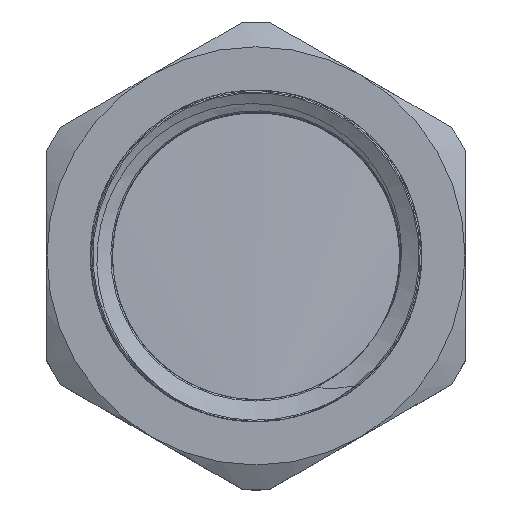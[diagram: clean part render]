
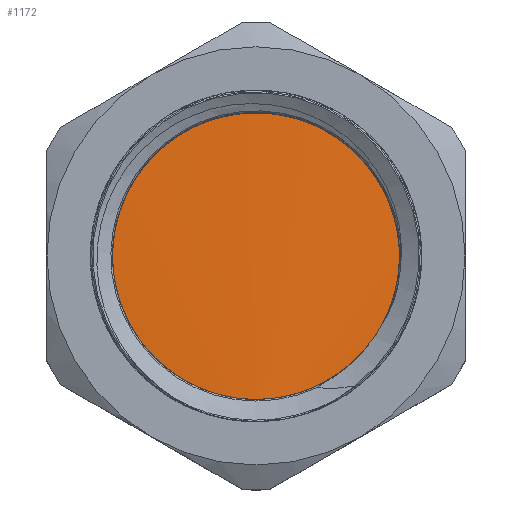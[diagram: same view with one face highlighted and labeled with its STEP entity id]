
A CAD part, top view. The second image highlights one B-rep face of the part: STEP entity #1172.
In plain terms, the highlighted cylindrical face has radius 9.315 mm (diameter 18.63 mm), a full revolution.
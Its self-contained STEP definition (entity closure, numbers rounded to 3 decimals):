
#25=B_SPLINE_CURVE_WITH_KNOTS('',3,(#1800,#1801,#1802,#1803,#1804,#1805,
#1806,#1807,#1808,#1809,#1810,#1811,#1812,#1813,#1814,#1815,#1816,#1817,
#1818,#1819,#1820,#1821,#1822,#1823,#1824,#1825,#1826,#1827,#1828,#1829,
#1830,#1831,#1832,#1833,#1834,#1835,#1836,#1837,#1838,#1839,#1840,#1841,
#1842),.UNSPECIFIED.,.F.,.F.,(4,3,3,3,3,3,3,3,3,3,3,3,3,3,4),(-18.85,
-18.43,-17.943,-17.456,-16.969,
-16.482,-15.995,-15.508,-15.021,
-14.534,-14.047,-13.56,-13.073,
-12.586,-12.566),.UNSPECIFIED.);
#138=LINE('',#1797,#177);
#139=LINE('',#1799,#178);
#177=VECTOR('',#1483,9.315);
#178=VECTOR('',#1484,9.315);
#210=CYLINDRICAL_SURFACE('',#1296,9.315);
#261=FACE_OUTER_BOUND('',#334,.T.);
#334=EDGE_LOOP('',(#896,#897,#898));
#496=VERTEX_POINT('',#1795);
#497=VERTEX_POINT('',#1796);
#498=VERTEX_POINT('',#1798);
#642=EDGE_CURVE('',#496,#497,#138,.T.);
#643=EDGE_CURVE('',#496,#498,#139,.T.);
#644=EDGE_CURVE('',#498,#497,#25,.T.);
#896=ORIENTED_EDGE('',*,*,#642,.F.);
#897=ORIENTED_EDGE('',*,*,#643,.T.);
#898=ORIENTED_EDGE('',*,*,#644,.T.);
#1172=ADVANCED_FACE('',(#261),#210,.T.);
#1296=AXIS2_PLACEMENT_3D('',#1794,#1481,#1482);
#1481=DIRECTION('center_axis',(0.,0.,-1.));
#1482=DIRECTION('ref_axis',(0.,1.,0.));
#1483=DIRECTION('',(0.,0.,-1.));
#1484=DIRECTION('',(0.,0.,1.));
#1794=CARTESIAN_POINT('Origin',(0.,0.,6.1));
#1795=CARTESIAN_POINT('',(0.,-9.315,3.592));
#1796=CARTESIAN_POINT('',(0.,-9.315,1.793));
#1797=CARTESIAN_POINT('',(0.,-9.315,6.1));
#1798=CARTESIAN_POINT('',(0.,-9.315,3.593));
#1799=CARTESIAN_POINT('',(0.,-9.315,6.1));
#1800=CARTESIAN_POINT('Ctrl Pts',(0.,-9.315,
3.593));
#1801=CARTESIAN_POINT('Ctrl Pts',(-1.302,-9.314,3.553));
#1802=CARTESIAN_POINT('Ctrl Pts',(-2.605,-9.038,3.513));
#1803=CARTESIAN_POINT('Ctrl Pts',(-3.795,-8.508,3.473));
#1804=CARTESIAN_POINT('Ctrl Pts',(-5.176,-7.892,3.426));
#1805=CARTESIAN_POINT('Ctrl Pts',(-6.403,-6.933,3.38));
#1806=CARTESIAN_POINT('Ctrl Pts',(-7.335,-5.743,3.333));
#1807=CARTESIAN_POINT('Ctrl Pts',(-8.267,-4.552,3.287));
#1808=CARTESIAN_POINT('Ctrl Pts',(-8.903,-3.13,3.24));
#1809=CARTESIAN_POINT('Ctrl Pts',(-9.17,-1.642,3.194));
#1810=CARTESIAN_POINT('Ctrl Pts',(-9.436,-0.154,
3.147));
#1811=CARTESIAN_POINT('Ctrl Pts',(-9.333,1.4,3.101));
#1812=CARTESIAN_POINT('Ctrl Pts',(-8.872,2.84,3.054));
#1813=CARTESIAN_POINT('Ctrl Pts',(-8.411,4.28,3.008));
#1814=CARTESIAN_POINT('Ctrl Pts',(-7.593,5.605,2.961));
#1815=CARTESIAN_POINT('Ctrl Pts',(-6.512,6.662,2.915));
#1816=CARTESIAN_POINT('Ctrl Pts',(-5.431,7.719,2.868));
#1817=CARTESIAN_POINT('Ctrl Pts',(-4.087,8.507,2.822));
#1818=CARTESIAN_POINT('Ctrl Pts',(-2.637,8.935,2.775));
#1819=CARTESIAN_POINT('Ctrl Pts',(-1.187,9.363,2.729));
#1820=CARTESIAN_POINT('Ctrl Pts',(0.369,9.43,2.682));
#1821=CARTESIAN_POINT('Ctrl Pts',(1.851,9.13,2.636));
#1822=CARTESIAN_POINT('Ctrl Pts',(3.332,8.83,2.589));
#1823=CARTESIAN_POINT('Ctrl Pts',(4.739,8.161,2.543));
#1824=CARTESIAN_POINT('Ctrl Pts',(5.908,7.202,2.496));
#1825=CARTESIAN_POINT('Ctrl Pts',(7.077,6.244,2.45));
#1826=CARTESIAN_POINT('Ctrl Pts',(8.008,4.994,2.403));
#1827=CARTESIAN_POINT('Ctrl Pts',(8.592,3.6,2.357));
#1828=CARTESIAN_POINT('Ctrl Pts',(9.176,2.206,2.31));
#1829=CARTESIAN_POINT('Ctrl Pts',(9.414,0.666,2.264));
#1830=CARTESIAN_POINT('Ctrl Pts',(9.278,-0.839,2.217));
#1831=CARTESIAN_POINT('Ctrl Pts',(9.142,-2.345,2.171));
#1832=CARTESIAN_POINT('Ctrl Pts',(8.631,-3.817,2.124));
#1833=CARTESIAN_POINT('Ctrl Pts',(7.806,-5.084,2.078));
#1834=CARTESIAN_POINT('Ctrl Pts',(6.981,-6.351,2.031));
#1835=CARTESIAN_POINT('Ctrl Pts',(5.842,-7.412,1.985));
#1836=CARTESIAN_POINT('Ctrl Pts',(4.52,-8.146,1.938));
#1837=CARTESIAN_POINT('Ctrl Pts',(3.198,-8.879,1.892));
#1838=CARTESIAN_POINT('Ctrl Pts',(1.694,-9.284,1.845));
#1839=CARTESIAN_POINT('Ctrl Pts',(0.182,-9.314,1.799));
#1840=CARTESIAN_POINT('Ctrl Pts',(0.121,-9.315,1.797));
#1841=CARTESIAN_POINT('Ctrl Pts',(0.061,-9.316,
1.795));
#1842=CARTESIAN_POINT('Ctrl Pts',(0.,-9.316,
1.793));
